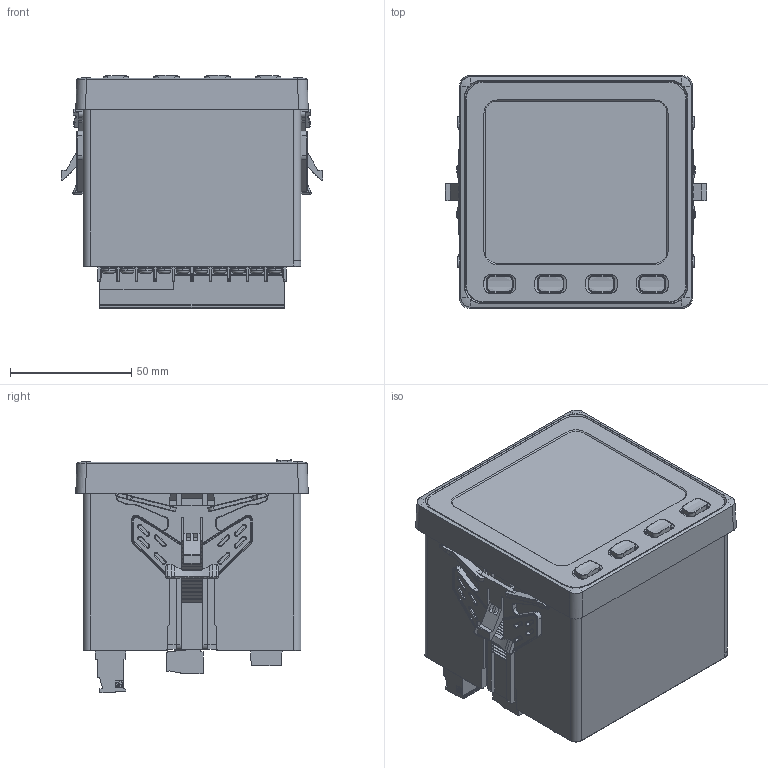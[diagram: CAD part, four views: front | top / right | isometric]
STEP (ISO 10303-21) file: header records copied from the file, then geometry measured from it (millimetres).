
FILE_DESCRIPTION(/* description */ (''),/* implementation_level */ '2;1');
FILE_NAME(/* name */ '新96型装配体外发1.stp',/* time_stamp */ '2023-05-26T13:14:42+08:00',/* author */ (''),/* organization */ (''),/* preprocessor_version */ 'ST-DEVELOPER v16',/* originating_system */ 'SIEMENS PLM Software NX 11.0',/* authorisation */ '');
FILE_SCHEMA (('AUTOMOTIVE_DESIGN { 1 0 10303 214 3 1 1 1 }'));
Products named in the file (1): 新96型装配体外发1
Bounding box: 108 x 96 x 96.29 mm (x, y, z)
Volume: 652392.3 mm3; surface area: 80325.4 mm2
Topology: 1 solids, 31 shells, 3644 faces, 10009 edges, 6469 vertices
Faces by surface type: plane 2367, cylinder 742, bspline 292, torus 160, sphere 42, cone 41
Entity records: 133276 total; most frequent: CARTESIAN_POINT 36025, ORIENTED_EDGE 19984, DIRECTION 17127, EDGE_CURVE 9992, VERTEX_POINT 6469, LINE 6409, VECTOR 6409, AXIS2_PLACEMENT_3D 5359
